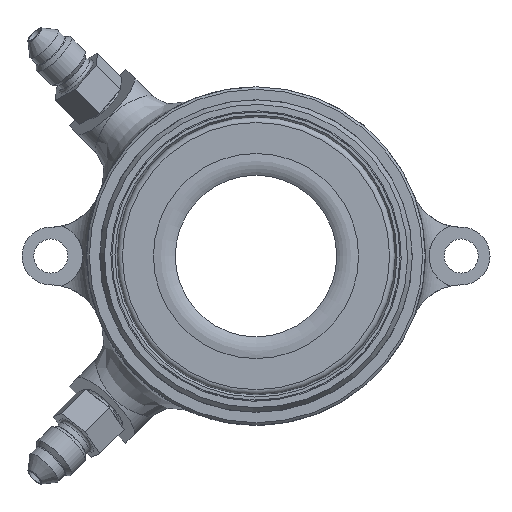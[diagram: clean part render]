
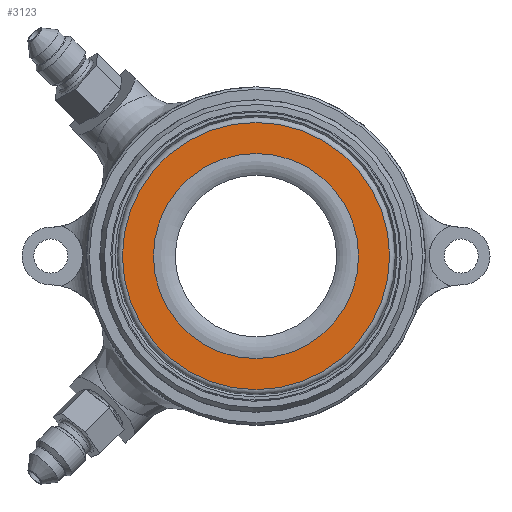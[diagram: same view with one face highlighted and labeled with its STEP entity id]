
A CAD part, left-side view. The second image highlights one B-rep face of the part: STEP entity #3123.
In plain terms, the highlighted planar face has unit normal (-1, 0, 0).
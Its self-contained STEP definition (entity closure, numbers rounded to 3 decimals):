
#340=PLANE('',#3287);
#429=ORIENTED_EDGE('',*,*,#1006,.T.);
#430=ORIENTED_EDGE('',*,*,#1012,.T.);
#1006=EDGE_CURVE('',#1303,#1303,#1557,.T.);
#1012=EDGE_CURVE('',#1309,#1309,#1563,.T.);
#1303=VERTEX_POINT('',#4113);
#1309=VERTEX_POINT('',#4129);
#1557=CIRCLE('',#3276,19.812);
#1563=CIRCLE('',#3286,26.461);
#1687=EDGE_LOOP('',(#429));
#1688=EDGE_LOOP('',(#430));
#1922=FACE_BOUND('',#1687,.T.);
#1923=FACE_BOUND('',#1688,.T.);
#3123=ADVANCED_FACE('',(#1922,#1923),#340,.T.);
#3276=AXIS2_PLACEMENT_3D('',#4112,#3552,#3553);
#3286=AXIS2_PLACEMENT_3D('',#4128,#3572,#3573);
#3287=AXIS2_PLACEMENT_3D('',#4130,#3574,#3575);
#3552=DIRECTION('',(1.,0.,0.));
#3553=DIRECTION('',(0.,0.,-1.));
#3572=DIRECTION('',(-1.,0.,0.));
#3573=DIRECTION('',(0.,0.,1.));
#3574=DIRECTION('',(-1.,0.,0.));
#3575=DIRECTION('',(0.,0.,1.));
#4112=CARTESIAN_POINT('',(-31.979,0.,0.));
#4113=CARTESIAN_POINT('',(-31.979,0.,-19.812));
#4128=CARTESIAN_POINT('',(-31.979,0.,0.));
#4129=CARTESIAN_POINT('',(-31.979,0.,26.461));
#4130=CARTESIAN_POINT('',(-31.979,0.,18.542));
